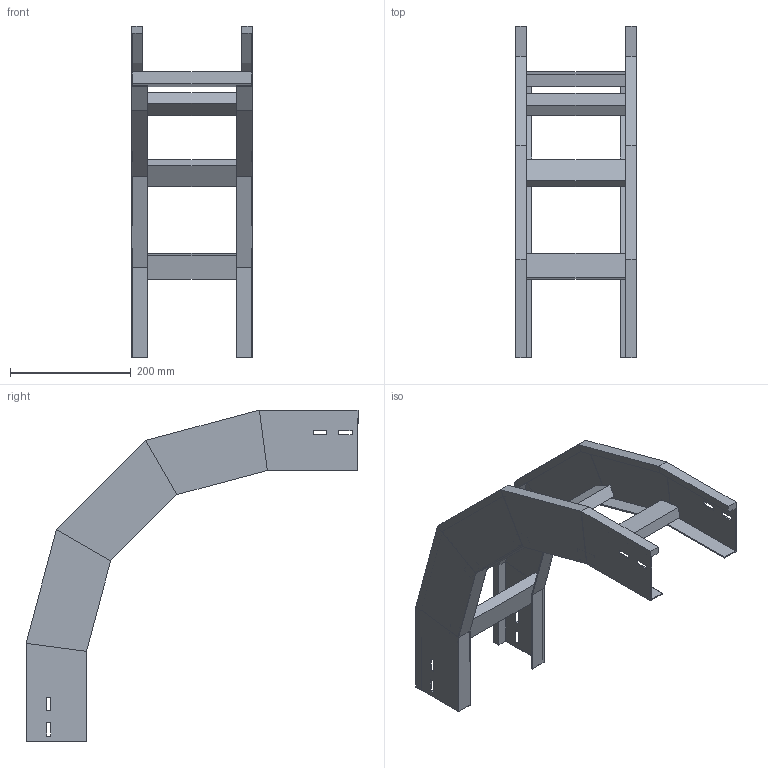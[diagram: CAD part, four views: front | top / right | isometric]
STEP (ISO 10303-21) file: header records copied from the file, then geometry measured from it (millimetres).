
FILE_DESCRIPTION (( 'STEP AP214' ), '1' );
FILE_NAME ('A2_33B3D200.step', '2025-02-21T15:01:47', ( '' ), ( '' ), 'SwSTEP 2.0', 'SolidWorks 2023', '' );
FILE_SCHEMA (( 'AUTOMOTIVE_DESIGN' ));
Length unit declared in the file: millimetre
Products named in the file (3): TRAVERSINO_200; LONGH.DISCESA_90°_H100_R300; A2_33B3D200
Assembly tree (6 placements, depth 2):
  A2_33B3D200
    LONGH.DISCESA_90°_H100_R300  x2
    TRAVERSINO_200  x4
Bounding box: 200 x 549.44 x 549.44 mm (x, y, z)
Volume: 1398660.1 mm3; surface area: 581539.4 mm2
Topology: 6 solids, 6 shells, 140 faces, 320 edges, 192 vertices
Faces by surface type: plane 140
Entity records: 1872 total; most frequent: CARTESIAN_POINT 309, ORIENTED_EDGE 296, DIRECTION 294, VECTOR 148, LINE 148, EDGE_CURVE 148, VERTEX_POINT 88, AXIS2_PLACEMENT_3D 73
